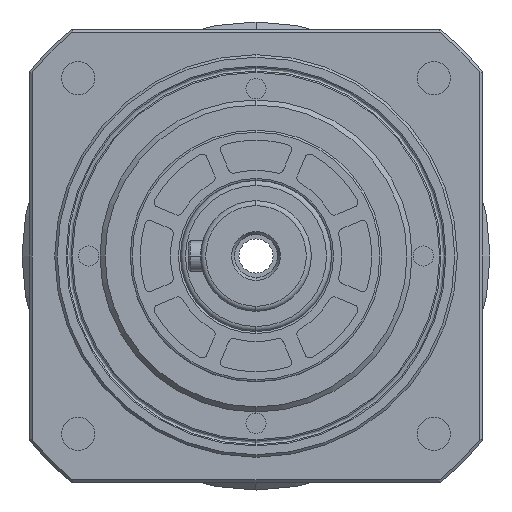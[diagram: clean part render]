
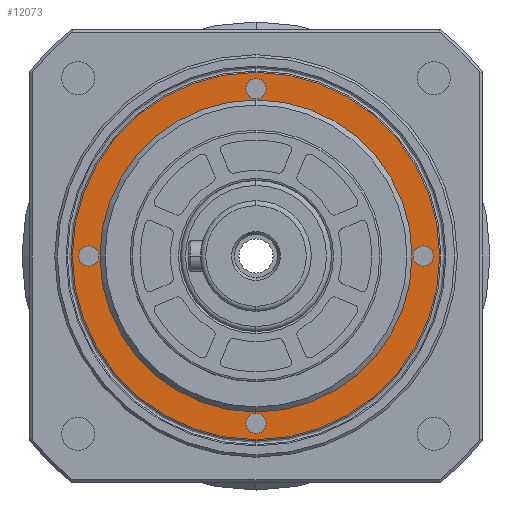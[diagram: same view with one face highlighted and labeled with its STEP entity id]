
A CAD part, left-side view. The second image highlights one B-rep face of the part: STEP entity #12073.
In plain terms, the highlighted planar face has unit normal (-1, 0, 0).
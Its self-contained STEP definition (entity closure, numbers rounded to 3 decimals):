
#107 = CIRCLE ( 'NONE', #14387, 2. ) ;
#242 = CIRCLE ( 'NONE', #14822, 2. ) ;
#296 = EDGE_LOOP ( 'NONE', ( #1221, #1175 ) ) ;
#299 = EDGE_LOOP ( 'NONE', ( #1177, #1178 ) ) ;
#300 = EDGE_LOOP ( 'NONE', ( #1179, #1180 ) ) ;
#304 = EDGE_LOOP ( 'NONE', ( #1181, #1182 ) ) ;
#305 = EDGE_LOOP ( 'NONE', ( #1183, #1184 ) ) ;
#307 = EDGE_LOOP ( 'NONE', ( #1185, #1186 ) ) ;
#1175 = ORIENTED_EDGE ( 'NONE', *, *, #6872, .F. ) ;
#1177 = ORIENTED_EDGE ( 'NONE', *, *, #7088, .F. ) ;
#1178 = ORIENTED_EDGE ( 'NONE', *, *, #6975, .F. ) ;
#1179 = ORIENTED_EDGE ( 'NONE', *, *, #7092, .F. ) ;
#1180 = ORIENTED_EDGE ( 'NONE', *, *, #6919, .F. ) ;
#1181 = ORIENTED_EDGE ( 'NONE', *, *, #7119, .F. ) ;
#1182 = ORIENTED_EDGE ( 'NONE', *, *, #7106, .F. ) ;
#1183 = ORIENTED_EDGE ( 'NONE', *, *, #7117, .T. ) ;
#1184 = ORIENTED_EDGE ( 'NONE', *, *, #7111, .T. ) ;
#1185 = ORIENTED_EDGE ( 'NONE', *, *, #7143, .T. ) ;
#1186 = ORIENTED_EDGE ( 'NONE', *, *, #7082, .T. ) ;
#1221 = ORIENTED_EDGE ( 'NONE', *, *, #7084, .F. ) ;
#2996 = CARTESIAN_POINT ( 'NONE',  ( 37.675, 35.672, 0. ) ) ;
#2997 = DIRECTION ( 'NONE',  ( -1., 0., 0. ) ) ;
#2998 = DIRECTION ( 'NONE',  ( 0., 0., 1. ) ) ;
#3501 = FACE_BOUND ( 'NONE', #304, .T. ) ;
#3502 = FACE_OUTER_BOUND ( 'NONE', #305, .T. ) ;
#3503 = FACE_BOUND ( 'NONE', #307, .T. ) ;
#3504 = FACE_BOUND ( 'NONE', #296, .T. ) ;
#3505 = FACE_BOUND ( 'NONE', #299, .T. ) ;
#3506 = FACE_BOUND ( 'NONE', #300, .T. ) ;
#4857 = VERTEX_POINT ( 'NONE', #11543 ) ;
#4860 = VERTEX_POINT ( 'NONE', #11501 ) ;
#4866 = VERTEX_POINT ( 'NONE', #11494 ) ;
#4869 = VERTEX_POINT ( 'NONE', #11489 ) ;
#4872 = VERTEX_POINT ( 'NONE', #11485 ) ;
#4880 = VERTEX_POINT ( 'NONE', #11475 ) ;
#4885 = VERTEX_POINT ( 'NONE', #11467 ) ;
#4901 = VERTEX_POINT ( 'NONE', #11444 ) ;
#4907 = VERTEX_POINT ( 'NONE', #11433 ) ;
#4933 = VERTEX_POINT ( 'NONE', #11396 ) ;
#5015 = VERTEX_POINT ( 'NONE', #11643 ) ;
#5028 = VERTEX_POINT ( 'NONE', #11671 ) ;
#6218 = AXIS2_PLACEMENT_3D ( 'NONE', #9503, #9565, #9564 ) ;
#6872 = EDGE_CURVE ( 'NONE', #4857, #4860, #242, .T. ) ;
#6919 = EDGE_CURVE ( 'NONE', #4872, #4907, #107, .T. ) ;
#6975 = EDGE_CURVE ( 'NONE', #4880, #4933, #10441, .T. ) ;
#7082 = EDGE_CURVE ( 'NONE', #5028, #4885, #10435, .T. ) ;
#7084 = EDGE_CURVE ( 'NONE', #4860, #4857, #10436, .T. ) ;
#7088 = EDGE_CURVE ( 'NONE', #4933, #4880, #10438, .T. ) ;
#7092 = EDGE_CURVE ( 'NONE', #4907, #4872, #10533, .T. ) ;
#7106 = EDGE_CURVE ( 'NONE', #4901, #4866, #10413, .T. ) ;
#7111 = EDGE_CURVE ( 'NONE', #4869, #5015, #10418, .T. ) ;
#7117 = EDGE_CURVE ( 'NONE', #5015, #4869, #10432, .T. ) ;
#7119 = EDGE_CURVE ( 'NONE', #4866, #4901, #10547, .T. ) ;
#7143 = EDGE_CURVE ( 'NONE', #4885, #5028, #10386, .T. ) ;
#9503 = CARTESIAN_POINT ( 'NONE',  ( 37.675, 33.422, 0. ) ) ;
#9505 = PLANE ( 'NONE',  #6218 ) ;
#9564 = DIRECTION ( 'NONE',  ( 0., 0., 1. ) ) ;
#9565 = DIRECTION ( 'NONE',  ( -1., 0., 0. ) ) ;
#10386 = CIRCLE ( 'NONE', #14813, 31. ) ;
#10413 = CIRCLE ( 'NONE', #14348, 2. ) ;
#10418 = CIRCLE ( 'NONE', #14344, 36.5 ) ;
#10432 = CIRCLE ( 'NONE', #14343, 36.5 ) ;
#10435 = CIRCLE ( 'NONE', #14353, 31. ) ;
#10436 = CIRCLE ( 'NONE', #14354, 2. ) ;
#10438 = CIRCLE ( 'NONE', #14352, 2. ) ;
#10441 = CIRCLE ( 'NONE', #14371, 2. ) ;
#10533 = CIRCLE ( 'NONE', #14349, 2. ) ;
#10547 = CIRCLE ( 'NONE', #14345, 2. ) ;
#11396 = CARTESIAN_POINT ( 'NONE',  ( 37.675, 2.422, 35.25 ) ) ;
#11433 = CARTESIAN_POINT ( 'NONE',  ( 37.675, -30.828, 2. ) ) ;
#11444 = CARTESIAN_POINT ( 'NONE',  ( 37.675, 2.422, -35.25 ) ) ;
#11467 = CARTESIAN_POINT ( 'NONE',  ( 37.675, 2.422, -31. ) ) ;
#11475 = CARTESIAN_POINT ( 'NONE',  ( 37.675, 2.422, 31.25 ) ) ;
#11485 = CARTESIAN_POINT ( 'NONE',  ( 37.675, -30.828, -2. ) ) ;
#11489 = CARTESIAN_POINT ( 'NONE',  ( 37.675, 2.422, 36.5 ) ) ;
#11494 = CARTESIAN_POINT ( 'NONE',  ( 37.675, 2.422, -31.25 ) ) ;
#11501 = CARTESIAN_POINT ( 'NONE',  ( 37.675, 35.672, 2. ) ) ;
#11543 = CARTESIAN_POINT ( 'NONE',  ( 37.675, 35.672, -2. ) ) ;
#11643 = CARTESIAN_POINT ( 'NONE',  ( 37.675, 2.422, -36.5 ) ) ;
#11671 = CARTESIAN_POINT ( 'NONE',  ( 37.675, 2.422, 31. ) ) ;
#11935 = CARTESIAN_POINT ( 'NONE',  ( 37.675, 2.422, 0. ) ) ;
#11936 = DIRECTION ( 'NONE',  ( 1., 0., 0. ) ) ;
#11937 = DIRECTION ( 'NONE',  ( 0., 0., -1. ) ) ;
#12073 = ADVANCED_FACE ( 'NONE', ( #3504, #3505, #3506, #3501, #3502, #3503 ), #9505, .T. ) ;
#12190 = DIRECTION ( 'NONE',  ( 0., 0., 1. ) ) ;
#12191 = CARTESIAN_POINT ( 'NONE',  ( 37.675, 2.422, 0. ) ) ;
#12193 = DIRECTION ( 'NONE',  ( -1., 0., 0. ) ) ;
#12210 = DIRECTION ( 'NONE',  ( 0., 0., 1. ) ) ;
#12211 = DIRECTION ( 'NONE',  ( -1., 0., 0. ) ) ;
#12213 = CARTESIAN_POINT ( 'NONE',  ( 37.675, 2.422, -33.25 ) ) ;
#12215 = DIRECTION ( 'NONE',  ( 0., 0., 1. ) ) ;
#12216 = DIRECTION ( 'NONE',  ( -1., 0., 0. ) ) ;
#12218 = CARTESIAN_POINT ( 'NONE',  ( 37.675, 2.422, 0. ) ) ;
#12261 = CARTESIAN_POINT ( 'NONE',  ( 37.675, -30.828, 0. ) ) ;
#12266 = DIRECTION ( 'NONE',  ( -1., 0., 0. ) ) ;
#12344 = DIRECTION ( 'NONE',  ( 0., 0., 1. ) ) ;
#12408 = CARTESIAN_POINT ( 'NONE',  ( 37.675, 2.422, 33.25 ) ) ;
#12409 = DIRECTION ( 'NONE',  ( -1., 0., 0. ) ) ;
#12416 = DIRECTION ( 'NONE',  ( 0., 0., 1. ) ) ;
#12538 = CARTESIAN_POINT ( 'NONE',  ( 37.675, 2.422, -33.25 ) ) ;
#12546 = DIRECTION ( 'NONE',  ( 0., 0., 1. ) ) ;
#12547 = DIRECTION ( 'NONE',  ( -1., 0., 0. ) ) ;
#12563 = DIRECTION ( 'NONE',  ( 0., 0., -1. ) ) ;
#12564 = CARTESIAN_POINT ( 'NONE',  ( 37.675, 2.422, 0. ) ) ;
#12565 = DIRECTION ( 'NONE',  ( 1., 0., 0. ) ) ;
#12568 = CARTESIAN_POINT ( 'NONE',  ( 37.675, 35.672, 0. ) ) ;
#12569 = DIRECTION ( 'NONE',  ( -1., 0., 0. ) ) ;
#12570 = DIRECTION ( 'NONE',  ( 0., 0., 1. ) ) ;
#12573 = DIRECTION ( 'NONE',  ( 0., 0., 1. ) ) ;
#12574 = DIRECTION ( 'NONE',  ( -1., 0., 0. ) ) ;
#12576 = CARTESIAN_POINT ( 'NONE',  ( 37.675, -30.828, 0. ) ) ;
#12579 = DIRECTION ( 'NONE',  ( 0., 0., 1. ) ) ;
#12580 = DIRECTION ( 'NONE',  ( -1., 0., 0. ) ) ;
#12581 = CARTESIAN_POINT ( 'NONE',  ( 37.675, 2.422, 33.25 ) ) ;
#14343 = AXIS2_PLACEMENT_3D ( 'NONE', #12218, #12216, #12215 ) ;
#14344 = AXIS2_PLACEMENT_3D ( 'NONE', #12191, #12193, #12190 ) ;
#14345 = AXIS2_PLACEMENT_3D ( 'NONE', #12213, #12211, #12210 ) ;
#14348 = AXIS2_PLACEMENT_3D ( 'NONE', #12538, #12547, #12546 ) ;
#14349 = AXIS2_PLACEMENT_3D ( 'NONE', #12576, #12574, #12573 ) ;
#14352 = AXIS2_PLACEMENT_3D ( 'NONE', #12581, #12580, #12579 ) ;
#14353 = AXIS2_PLACEMENT_3D ( 'NONE', #12564, #12565, #12563 ) ;
#14354 = AXIS2_PLACEMENT_3D ( 'NONE', #12568, #12569, #12570 ) ;
#14371 = AXIS2_PLACEMENT_3D ( 'NONE', #12408, #12409, #12416 ) ;
#14387 = AXIS2_PLACEMENT_3D ( 'NONE', #12261, #12266, #12344 ) ;
#14813 = AXIS2_PLACEMENT_3D ( 'NONE', #11935, #11936, #11937 ) ;
#14822 = AXIS2_PLACEMENT_3D ( 'NONE', #2996, #2997, #2998 ) ;
